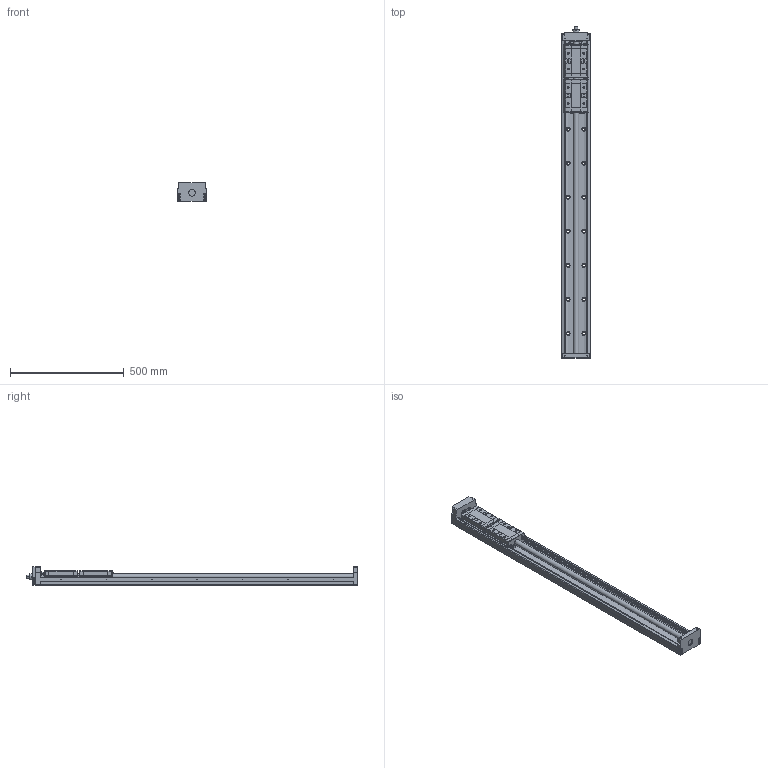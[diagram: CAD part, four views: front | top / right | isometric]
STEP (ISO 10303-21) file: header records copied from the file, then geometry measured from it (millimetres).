
FILE_DESCRIPTION(('no description'),'unknown implementation level');
FILE_NAME('KK13025P1380A2H0000_FILE_68.stp',' ',('HIWIN GmbH'),('CADClick - KiM GmbH - www.kimweb.de'),'unknown preprocess','ACIS','unknown authorization');
FILE_SCHEMA(('automotive_design'));
Length unit declared in the file: millimetre
Products named in the file (3): KK13025P1380A2H0000_FILE_1; KK130_FILE; KK13025P1380A2H0000_FILE
Bounding box: 130 x 1462 x 83 mm (x, y, z)
Volume: 5973364.2 mm3; surface area: 844985 mm2
Topology: 3 solids, 19 shells, 1051 faces, 2584 edges, 1666 vertices
Faces by surface type: plane 657, cylinder 342, torus 44, sphere 4, cone 4
Entity records: 60946 total; most frequent: DIRECTION 5560, CARTESIAN_POINT 5516, STYLED_ITEM 5300, PRESENTATION_STYLE_ASSIGNMENT 5300, COLOUR_RGB 5300, ORIENTED_EDGE 5160, EDGE_CURVE 2580, CURVE_STYLE 2580
